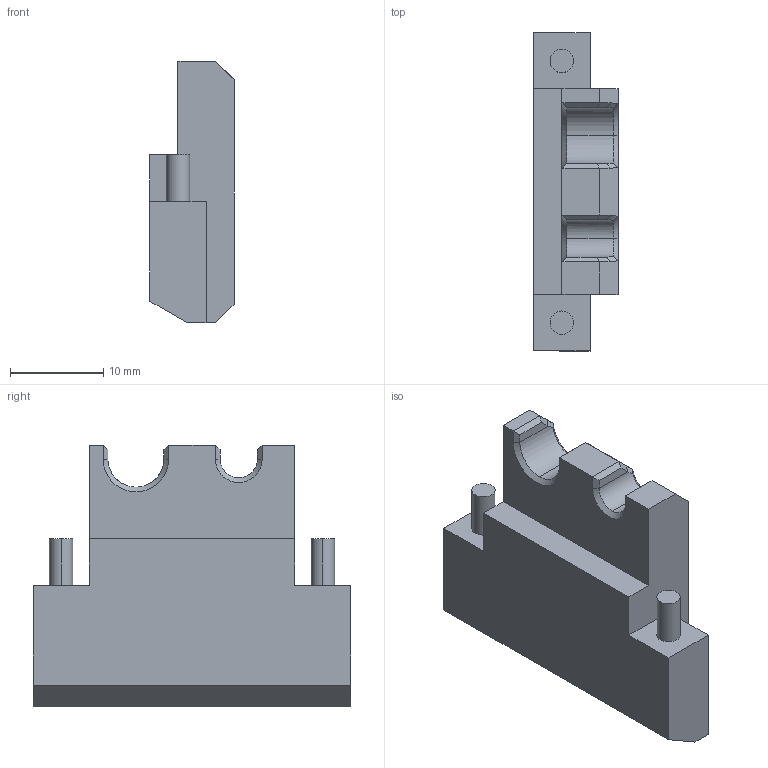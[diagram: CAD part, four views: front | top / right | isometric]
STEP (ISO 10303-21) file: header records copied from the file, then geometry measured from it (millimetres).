
FILE_DESCRIPTION (( 'STEP AP214' ), '1' );
FILE_NAME ('GZ47A.08_V1支撑板.STEP', '2021-07-01T01:04:13', ( '微软中国' ), ( 'Microsoft' ), 'SwSTEP 2.0', 'SolidWorks 2017', '' );
FILE_SCHEMA (( 'AUTOMOTIVE_DESIGN' ));
Length unit declared in the file: millimetre
Products named in the file (1): GZ47A.08_V1盓傅啣
Bounding box: 9 x 34 x 28 mm (x, y, z)
Volume: 5423.8 mm3; surface area: 2465.1 mm2
Topology: 1 solids, 1 shells, 57 faces, 141 edges, 88 vertices
Faces by surface type: plane 39, cylinder 8, cone 6, bspline 4
Entity records: 1813 total; most frequent: CARTESIAN_POINT 465, ORIENTED_EDGE 282, DIRECTION 251, EDGE_CURVE 141, LINE 99, VECTOR 99, VERTEX_POINT 88, AXIS2_PLACEMENT_3D 76
